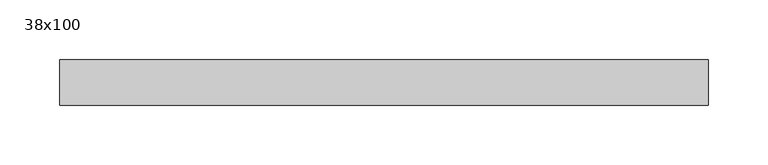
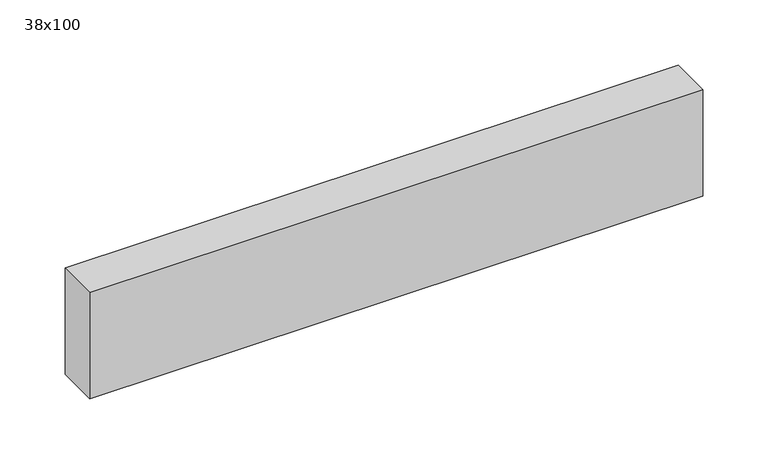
"""IFC4 building model written with IfcOpenShell, lengths in millimetres: beam geometry, Poutre - Bois de construction de dimensions courantes : 38x100."""

import ifcopenshell
import ifcopenshell.guid

model = None  # the IFC model being written
_history = None  # IfcOwnerHistory: only IFC2X3 demands one
_inside = {}  # id of a spatial element -> (the spatial element, [elements in it])
_under = {}  # id of a project, library or spatial element -> (it, [spatial elements below it])
_declared = {}  # id of a project -> (the project, [libraries it declares])
_typed = {}  # id of a type object -> (the type object, [elements of that type])
_made_of = {}  # id of a material, layer set ... -> (it, [elements and type objects made of it])


def new_model(schema):
    """Start an empty IFC model of exactly this schema.

    Asked for "IFC4X3", IfcOpenShell would pick the latest addendum, in which some entities
    have other attributes; the version numbers below select the first issue.
    IFC2X3 requires an IfcOwnerHistory on every rooted entity: one is made here for all.
    """
    global model, _history
    if schema == "IFC4X3":
        model = ifcopenshell.file(schema_version=(4, 3, 0, 0))
    else:
        model = ifcopenshell.file(schema=schema)
    _inside.clear()
    _under.clear()
    _declared.clear()
    _typed.clear()
    _made_of.clear()
    _history = None
    if model.schema == "IFC2X3":
        org = make("IfcOrganization", Name="unknown")
        user = make(
            "IfcPersonAndOrganization",
            ThePerson=make("IfcPerson", FamilyName="unknown"),
            TheOrganization=org,
        )
        app = make(
            "IfcApplication",
            ApplicationDeveloper=org,
            Version="unknown",
            ApplicationFullName="unknown",
            ApplicationIdentifier="unknown",
        )
        _history = make(
            "IfcOwnerHistory",
            OwningUser=user,
            OwningApplication=app,
            ChangeAction="ADDED",
            CreationDate=0,
        )
    return model


def make(cls, **values):
    """One entity of the class cls with the attributes given. An attribute that is None is left unset."""
    return model.create_entity(
        cls, **{name: value for name, value in values.items() if value is not None}
    )


def rooted(cls, **values):
    """An entity with a GlobalId (a new one), such as an element, a storey or a relation."""
    return make(cls, GlobalId=ifcopenshell.guid.new(), OwnerHistory=_history, **values)


def si_unit(unit_type, name, prefix=None):
    """IfcSIUnit, for example si_unit("LENGTHUNIT", "METRE", prefix="MILLI")."""
    return make("IfcSIUnit", UnitType=unit_type, Prefix=prefix, Name=name)


def assignment(units):
    """IfcUnitAssignment: the units of a project."""
    return None if units is None else make("IfcUnitAssignment", Units=units)


def point(xyz):
    """IfcCartesianPoint."""
    return None if xyz is None else make("IfcCartesianPoint", Coordinates=xyz)


def direction(xyz):
    """IfcDirection."""
    return None if xyz is None else make("IfcDirection", DirectionRatios=xyz)


def frame(location, z_axis=None, x_axis=None):
    """IfcAxis2Placement3D, a coordinate frame: its origin and axes. An axis left out is left unset."""
    return make(
        "IfcAxis2Placement3D",
        Location=point(location),
        Axis=direction(z_axis),
        RefDirection=direction(x_axis),
    )


def origin():
    """The frame at (0, 0, 0) with its axes left unset."""
    return frame((0.0, 0.0, 0.0))


def place(relative_to, where):
    """IfcLocalPlacement: puts the frame where relative to a parent placement (None: the world)."""
    return make(
        "IfcLocalPlacement", PlacementRelTo=relative_to, RelativePlacement=where
    )


def context(
    kind, dimensions, precision=None, world=None, true_north=None, identifier=None
):
    """IfcGeometricRepresentationContext, for example the 3D "Model" context."""
    return make(
        "IfcGeometricRepresentationContext",
        ContextIdentifier=identifier,
        ContextType=kind,
        CoordinateSpaceDimension=dimensions,
        Precision=precision,
        WorldCoordinateSystem=world,
        TrueNorth=true_north,
    )


def project(units=None, contexts=None):
    """IfcProject with its units and contexts."""
    return rooted(
        "IfcProject",
        Name="project",
        RepresentationContexts=contexts,
        UnitsInContext=assignment(units),
    )


def spatial(cls, under=None, at=None, **own):
    """A site, building, storey or space (cls), placed at a placement, below another one or the project."""
    s = rooted(cls, ObjectPlacement=at, **own)
    if under is not None:
        _under.setdefault(under.id(), (under, []))[1].append(s)
    return s


def polyline(points):
    """IfcPolyline through the points."""
    return make("IfcPolyline", Points=[point(p) for p in points])


def outline(outer, holes=None, kind="AREA"):
    """IfcArbitraryClosedProfileDef: a profile drawn as a closed curve; with holes, ...WithVoids."""
    if holes is None:
        return make("IfcArbitraryClosedProfileDef", ProfileType=kind, OuterCurve=outer)
    return make(
        "IfcArbitraryProfileDefWithVoids",
        ProfileType=kind,
        OuterCurve=outer,
        InnerCurves=holes,
    )


def extrude(swept, where, along, depth):
    """IfcExtrudedAreaSolid: the profile swept, set in the frame where, extruded along a direction by depth."""
    return make(
        "IfcExtrudedAreaSolid",
        SweptArea=swept,
        Position=where,
        ExtrudedDirection=direction(along),
        Depth=depth,
    )


def shape(context_of_items, identifier, shape_type, items):
    """IfcShapeRepresentation: the items that make up one representation, for example the "Body"."""
    return make(
        "IfcShapeRepresentation",
        ContextOfItems=context_of_items,
        RepresentationIdentifier=identifier,
        RepresentationType=shape_type,
        Items=items,
    )


def source(mapping_origin, context_of_items, identifier, shape_type, items):
    """IfcRepresentationMap: a shape defined once, which mapped items show again and again."""
    return make(
        "IfcRepresentationMap",
        MappingOrigin=mapping_origin,
        MappedRepresentation=shape(context_of_items, identifier, shape_type, items),
    )


def transform(
    local_origin,
    x_axis=None,
    y_axis=None,
    z_axis=None,
    scale=None,
    scale2=None,
    scale3=None,
    uniform=True,
):
    """IfcCartesianTransformationOperator3D, or its non-uniform kind. x_axis, y_axis, z_axis: its Axis1, 2, 3."""
    if uniform:
        return make(
            "IfcCartesianTransformationOperator3D",
            Axis1=direction(x_axis),
            Axis2=direction(y_axis),
            LocalOrigin=point(local_origin),
            Scale=scale,
            Axis3=direction(z_axis),
        )
    return make(
        "IfcCartesianTransformationOperator3DnonUniform",
        Axis1=direction(x_axis),
        Axis2=direction(y_axis),
        LocalOrigin=point(local_origin),
        Scale=scale,
        Axis3=direction(z_axis),
        Scale2=scale2,
        Scale3=scale3,
    )


def mapped(mapping_source, mapping_target):
    """IfcMappedItem: shows the shape of a source again, moved by a transform."""
    return make(
        "IfcMappedItem", MappingSource=mapping_source, MappingTarget=mapping_target
    )


def made_of(thing, what):
    """Note that an element or type object is made of a material, layer set ...; save() writes the relation."""
    if what is not None:
        _made_of.setdefault(what.id(), (what, []))[1].append(thing)
    return thing


def element(
    cls,
    number,
    at=None,
    inside=None,
    cuts=None,
    type_object=None,
    material=None,
    context=None,
    identifier="Body",
    shape_type=None,
    held_by="IfcProductDefinitionShape",
    body=None,
    shapes=None,
    **own,
):
    """One element of the class cls, such as IfcWall. Its Tag is "e" and its number.

    at: its placement. inside: the storey or other place that contains it. cuts: it is an
    opening in that element (IfcRelVoidsElement). A single representation is given by context,
    identifier, shape_type and body (its items); several are given by shapes. held_by: the class
    of the entity that holds the representations. save() writes the other relations.
    """
    e = rooted(cls, Tag="e%d" % number, ObjectPlacement=at, **own)
    if body is not None:
        shapes = [shape(context, identifier, shape_type, body)]
    if shapes is not None:
        e.Representation = make(held_by, Representations=shapes)
    if inside is not None:
        _inside.setdefault(inside.id(), (inside, []))[1].append(e)
    if cuts is not None:
        rooted(
            "IfcRelVoidsElement", RelatingBuildingElement=cuts, RelatedOpeningElement=e
        )
    if type_object is not None:
        _typed.setdefault(type_object.id(), (type_object, []))[1].append(e)
    return made_of(e, material)


def aggregate(whole, parts):
    """IfcRelAggregates: a whole, such as a stair, and the parts it consists of."""
    return rooted("IfcRelAggregates", RelatingObject=whole, RelatedObjects=parts)


def save(model, path):
    """Write the relations noted so far, then the file.

    IfcRelAggregates (storeys below a building ...), IfcRelContainedInSpatialStructure (elements
    in a storey), IfcRelDefinesByType, IfcRelAssociatesMaterial and IfcRelDeclares: one each for
    every whole, place, type object, material and project.
    """
    for whole, parts in _under.values():
        aggregate(whole, parts)
    for where, things in _inside.values():
        rooted(
            "IfcRelContainedInSpatialStructure",
            RelatedElements=things,
            RelatingStructure=where,
        )
    for kind, things in _typed.values():
        rooted("IfcRelDefinesByType", RelatedObjects=things, RelatingType=kind)
    for what, things in _made_of.values():
        rooted("IfcRelAssociatesMaterial", RelatedObjects=things, RelatingMaterial=what)
    for by, libraries in _declared.values():
        rooted("IfcRelDeclares", RelatingContext=by, RelatedDefinitions=libraries)
    model.write(path)


def beam_38x100_7be6d489(model_context):
    return source(origin(), model_context, "Body", "SweptSolid", [
        extrude(outline(polyline([(111.0, 19.05), (111.0, -19.05), (-433.0, -19.05), (-433.0, 19.05), (111.0, 19.05)])), frame((0.0, 0.0, -50.0), z_axis=(0.0, 0.0, 1.0), x_axis=(1.0, 0.0, 0.0)), (0.0, 0.0, 1.0), 100.0),
    ])


if __name__ == "__main__":
    model = new_model("IFC4")
    model_context = context("Model", 3, world=origin())
    ifc_project = project(units=[si_unit("LENGTHUNIT", "METRE", prefix="MILLI")], contexts=[model_context])
    site = spatial("IfcSite", under=ifc_project)
    building = spatial("IfcBuilding", under=site)
    placement = place(None, origin())
    beam_38x100_shape = beam_38x100_7be6d489(model_context)
    element("IfcBeam", 1, ObjectType="Poutre - Bois de construction de dimensions courantes : 38x100", at=placement, inside=building, context=model_context, shape_type="MappedRepresentation", body=[
        mapped(beam_38x100_shape, transform((0.0, 0.0, 0.0), x_axis=(1.0, 0.0, 0.0), y_axis=(0.0, 1.0, 0.0), z_axis=(0.0, 0.0, 1.0))),
    ])
    save(model, "model.ifc")
